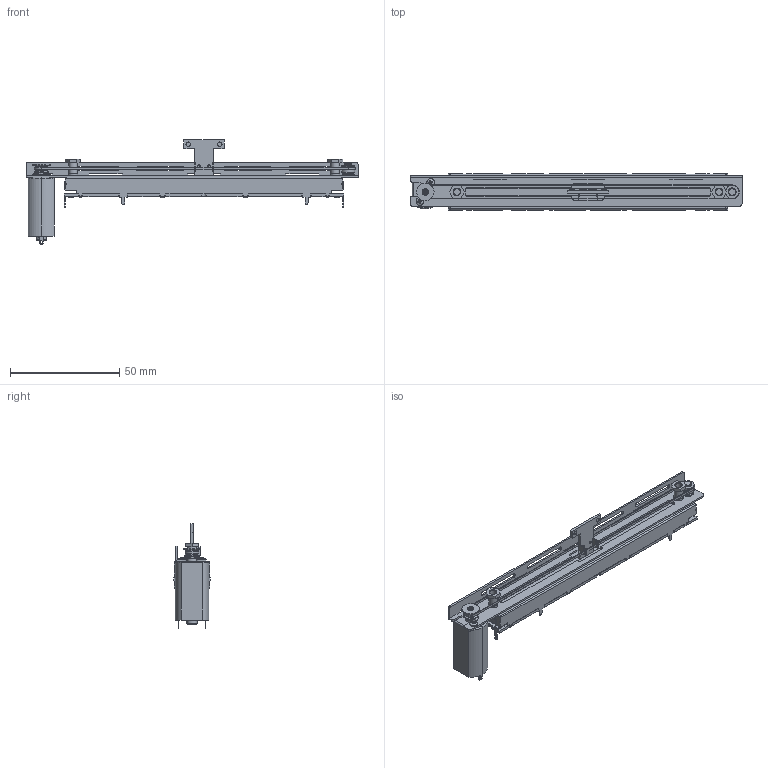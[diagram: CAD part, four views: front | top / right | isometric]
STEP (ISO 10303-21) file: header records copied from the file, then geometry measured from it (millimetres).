
FILE_DESCRIPTION(('FreeCAD Model'),'2;1');
FILE_NAME('Open CASCADE Shape Model','2023-03-17T16:18:57',(''),(''), 'Open CASCADE STEP processor 7.6','FreeCAD','Unknown');
FILE_SCHEMA(('AUTOMOTIVE_DESIGN { 1 0 10303 214 1 1 1 1 }'));
Products named in the file (1): Fusion002015
Bounding box: 152 x 16.5 x 47.8 mm (x, y, z)
Volume: 24605.2 mm3; surface area: 21509.3 mm2
Topology: 5 solids, 9 shells, 1212 faces, 3100 edges, 1915 vertices
Faces by surface type: plane 883, cylinder 289, cone 31, torus 6, sphere 2, bspline 1
Full cylindrical faces by diameter (mm): 0.5 x15, 1.2 x6, 1.25 x2, 1.3 x1, 1.5 x4, 2 x9, 3 x8, 3.2 x2, 3.5 x5, 3.7 x1, 4 x3, 4.5 x2, 4.7 x2, 5 x2, 5.38 x1, 5.6 x1, 6 x2, 6.5 x1, 8 x1
Entity records: 82522 total; most frequent: CARTESIAN_POINT 17244, DIRECTION 9872, ORIENTED_EDGE 6544, PCURVE 6196, DEFINITIONAL_REPRESENTATION 6196, LINE 5601, VECTOR 5601, EDGE_CURVE 3098
